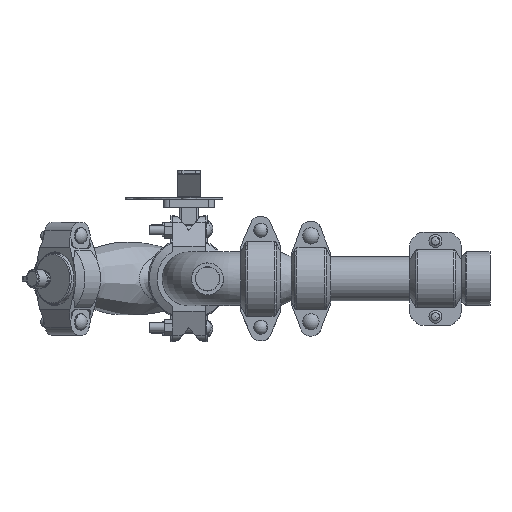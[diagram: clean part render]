
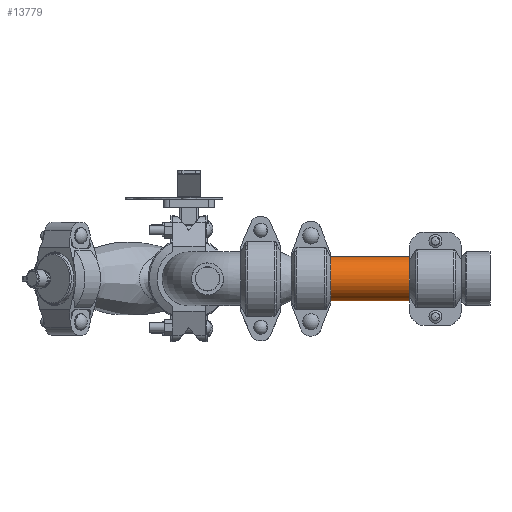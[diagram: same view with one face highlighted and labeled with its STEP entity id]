
A CAD part, front view. The second image highlights one B-rep face of the part: STEP entity #13779.
In plain terms, the highlighted cylindrical face has radius 30.163 mm (diameter 60.325 mm), a full revolution.
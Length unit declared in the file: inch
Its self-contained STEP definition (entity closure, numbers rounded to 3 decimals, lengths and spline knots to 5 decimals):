
#478=LINE('',#20825,#1455);
#1455=VECTOR('',#16586,1.1875);
#2432=CYLINDRICAL_SURFACE('',#14932,1.1875);
#2858=FACE_OUTER_BOUND('',#3611,.T.);
#3611=EDGE_LOOP('',(#8645,#8646,#8647,#8648,#8649,#8650));
#4521=CIRCLE('',#14930,1.1875);
#4522=CIRCLE('',#14931,1.1875);
#4523=CIRCLE('',#14933,1.1875);
#4524=CIRCLE('',#14934,1.1875);
#5300=VERTEX_POINT('',#20816);
#5301=VERTEX_POINT('',#20817);
#5302=VERTEX_POINT('',#20821);
#5303=VERTEX_POINT('',#20822);
#6642=EDGE_CURVE('',#5300,#5301,#4521,.T.);
#6643=EDGE_CURVE('',#5301,#5300,#4522,.T.);
#6644=EDGE_CURVE('',#5302,#5303,#4523,.T.);
#6645=EDGE_CURVE('',#5303,#5302,#4524,.T.);
#6646=EDGE_CURVE('',#5303,#5301,#478,.T.);
#8645=ORIENTED_EDGE('',*,*,#6644,.F.);
#8646=ORIENTED_EDGE('',*,*,#6645,.F.);
#8647=ORIENTED_EDGE('',*,*,#6646,.T.);
#8648=ORIENTED_EDGE('',*,*,#6643,.T.);
#8649=ORIENTED_EDGE('',*,*,#6642,.T.);
#8650=ORIENTED_EDGE('',*,*,#6646,.F.);
#13779=ADVANCED_FACE('',(#2858),#2432,.T.);
#14930=AXIS2_PLACEMENT_3D('',#20818,#16576,#16577);
#14931=AXIS2_PLACEMENT_3D('',#20819,#16578,#16579);
#14932=AXIS2_PLACEMENT_3D('',#20820,#16580,#16581);
#14933=AXIS2_PLACEMENT_3D('',#20823,#16582,#16583);
#14934=AXIS2_PLACEMENT_3D('',#20824,#16584,#16585);
#16576=DIRECTION('center_axis',(1.,0.,0.));
#16577=DIRECTION('ref_axis',(0.,0.,-1.));
#16578=DIRECTION('center_axis',(1.,0.,0.));
#16579=DIRECTION('ref_axis',(0.,0.,-1.));
#16580=DIRECTION('center_axis',(1.,0.,0.));
#16581=DIRECTION('ref_axis',(0.,1.,0.));
#16582=DIRECTION('center_axis',(1.,0.,0.));
#16583=DIRECTION('ref_axis',(0.,0.,-1.));
#16584=DIRECTION('center_axis',(1.,0.,0.));
#16585=DIRECTION('ref_axis',(0.,0.,-1.));
#16586=DIRECTION('',(-1.,0.,0.));
#20816=CARTESIAN_POINT('',(-2.1085,1.1875,0.));
#20817=CARTESIAN_POINT('',(-2.1085,-1.1875,0.));
#20818=CARTESIAN_POINT('Origin',(-2.1085,0.,0.));
#20819=CARTESIAN_POINT('Origin',(-2.1085,0.,0.));
#20820=CARTESIAN_POINT('Origin',(0.,0.,0.));
#20821=CARTESIAN_POINT('',(2.1085,1.1875,0.));
#20822=CARTESIAN_POINT('',(2.1085,-1.1875,0.));
#20823=CARTESIAN_POINT('Origin',(2.1085,0.,0.));
#20824=CARTESIAN_POINT('Origin',(2.1085,0.,0.));
#20825=CARTESIAN_POINT('',(0.,-1.1875,0.));
